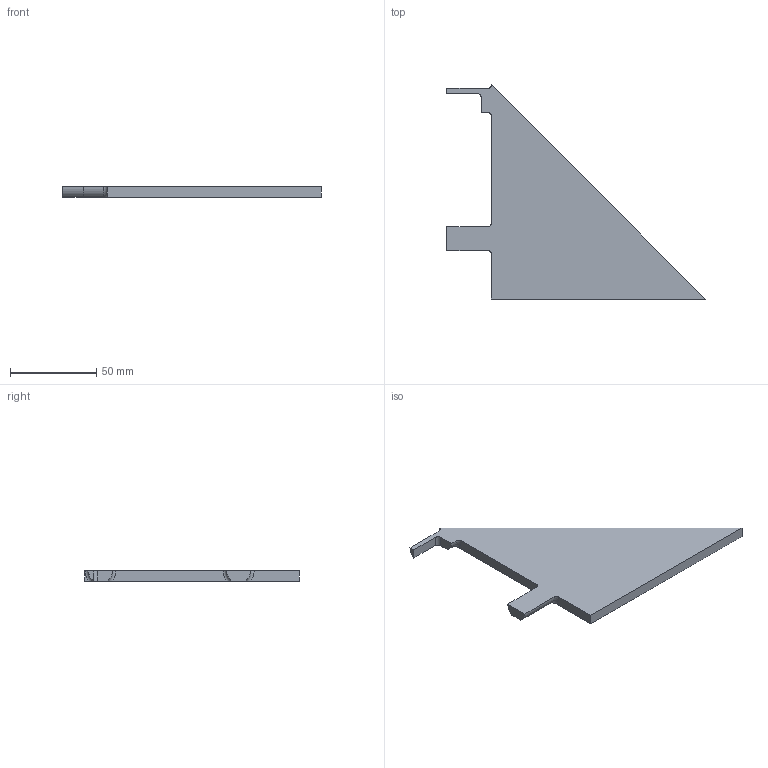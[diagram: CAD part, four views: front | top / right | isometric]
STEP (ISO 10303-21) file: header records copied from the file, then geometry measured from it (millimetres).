
FILE_DESCRIPTION(('Open CASCADE Model'),'2;1');
FILE_NAME('Open CASCADE Shape Model','2026-10-15T15:10:09',('Author'),( 'Open CASCADE'),'Open CASCADE STEP processor 8.0','Open CASCADE 8.0' ,'Unknown');
FILE_SCHEMA(('AUTOMOTIVE_DESIGN { 1 0 10303 214 1 1 1 1 }'));
Length unit declared in the file: millimetre
Products named in the file (1): J01_CARTELA_150x150x6_P05_JUNTA_32 213
Bounding box: 150 x 124 x 6 mm (x, y, z)
Volume: 48705.8 mm3; surface area: 19346.9 mm2
Topology: 1 solids, 1 shells, 23 faces, 62 edges, 41 vertices
Faces by surface type: plane 11, cylinder 8, torus 4
Entity records: 4363 total; most frequent: CARTESIAN_POINT 3249, DIRECTION 165, ORIENTED_EDGE 124, PCURVE 124, DEFINITIONAL_REPRESENTATION 124, B_SPLINE_CURVE_WITH_KNOTS 82, LINE 77, VECTOR 77
